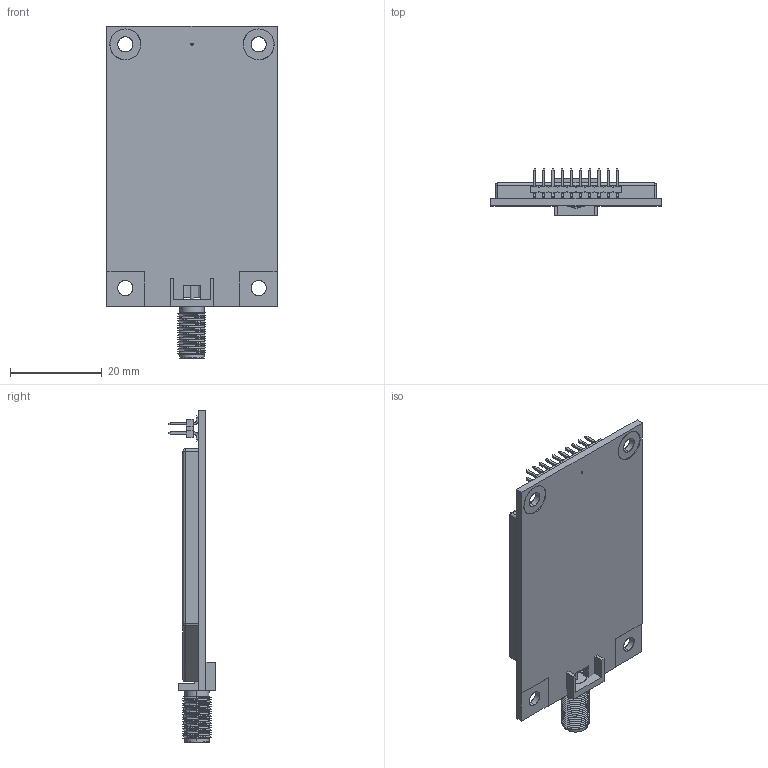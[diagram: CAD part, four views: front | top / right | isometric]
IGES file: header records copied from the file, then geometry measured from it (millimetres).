
Start section: SolidWorks IGES file using analytic representation for surfaces
Global section: file name: C:\Documents and Settings\paulc.TRANSERA\My Documents\Maxstream\SMA.IGS; native system: SolidWorks 2005 by SolidWorks Corporation; preprocessor: SolidWorks 2005 by SolidWorks Corporation; author: paulc; date: 050126.083946; units: inch
Bounding box: 37 x 10.09 x 72.2 mm (x, y, z)
Surface area: 6585.7 mm2 (no closed solid volume)
Topology: 0 solids, 0 shells, 773 faces, 6128 edges, 6124 vertices
Faces by surface type: bspline 629, revolution 144
